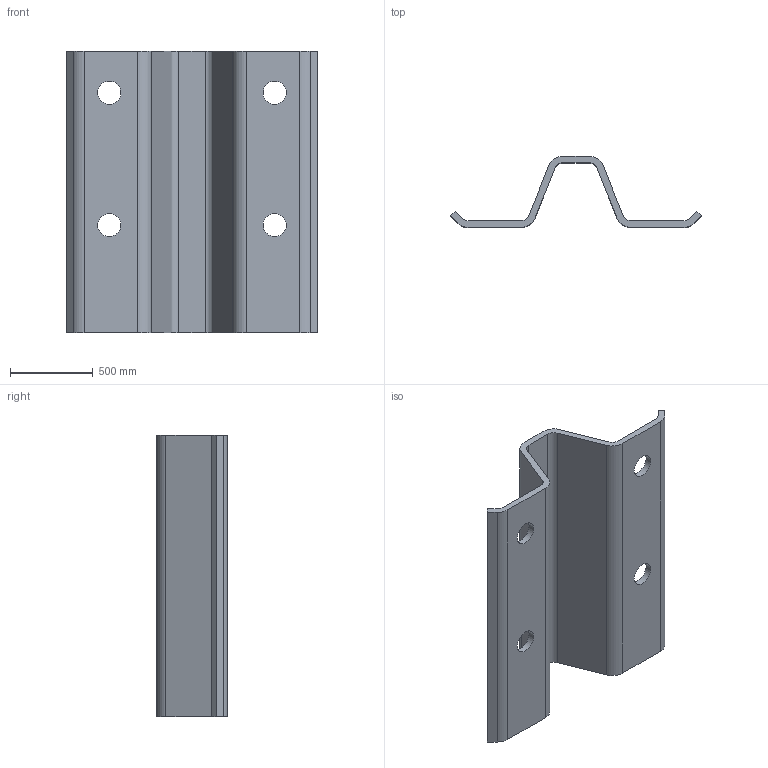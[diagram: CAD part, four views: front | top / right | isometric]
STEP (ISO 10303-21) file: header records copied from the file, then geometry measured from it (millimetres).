
FILE_DESCRIPTION(/* description */ (''),/* implementation_level */ '2;1');
FILE_NAME(/* name */ 'ZC200.stp',/* time_stamp */ '2024-10-31T15:19:29+01:00',/* author */ ('woriedl'),/* organization */ (''),/* preprocessor_version */ 'ST-DEVELOPER v20',/* originating_system */ 'AutoCAD Mechanical',/* authorisation */ '');
FILE_SCHEMA (('AUTOMOTIVE_DESIGN { 1 0 10303 214 3 1 1 }'));
Length unit declared in the file: centimetre
Products named in the file (1): Product
Bounding box: 1517.2 x 430 x 1700 mm (x, y, z)
Volume: 134777443.6 mm3; surface area: 7106703.2 mm2
Topology: 1 solids, 1 shells, 34 faces, 96 edges, 64 vertices
Faces by surface type: plane 18, cylinder 16
Full cylindrical faces by diameter (mm): 140 x4
Entity records: 1151 total; most frequent: DIRECTION 198, CARTESIAN_POINT 195, ORIENTED_EDGE 192, EDGE_CURVE 96, AXIS2_PLACEMENT_3D 67, LINE 64, VECTOR 64, VERTEX_POINT 64
